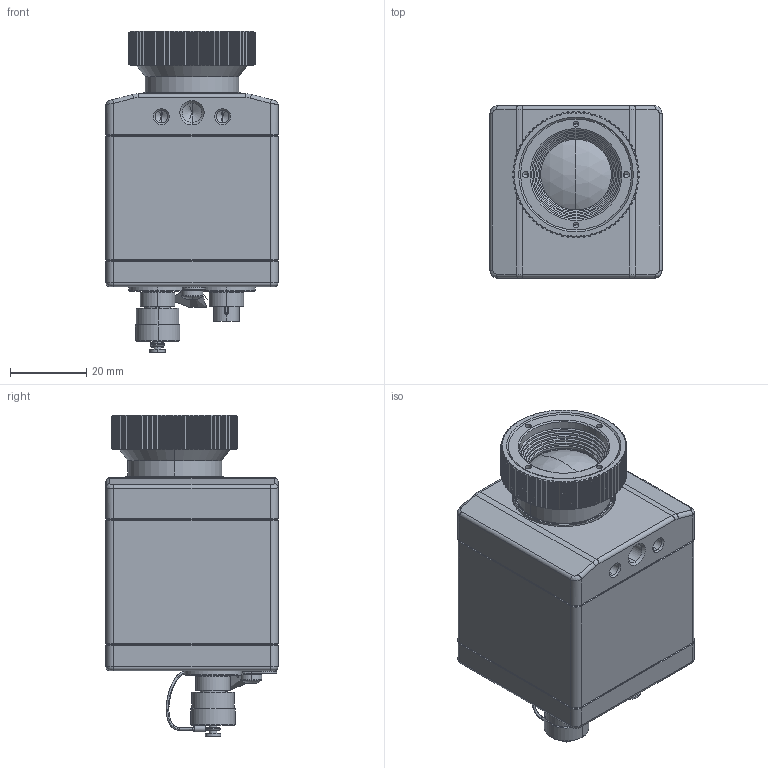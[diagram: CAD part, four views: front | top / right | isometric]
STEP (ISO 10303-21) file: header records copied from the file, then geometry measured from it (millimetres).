
FILE_DESCRIPTION (( 'STEP AP214' ), '1' );
FILE_NAME ('Pi-400i-O29.STEP', '2019-09-30T07:38:51', ( 'admin' ), ( '' ), 'SwSTEP 2.0', 'SolidWorks 2017', '' );
FILE_SCHEMA (( 'AUTOMOTIVE_DESIGN' ));
Length unit declared in the file: millimetre
Products named in the file (29): 1R085-B Linse2-F13-384-GE-p17-RevB; 51099 Schutzkappe-712 FS_F〉 Pi; 63019 O-Ring 19 x 1_O-Ring 16 x 1; 54250 Temperaturaufkleber; 63023 O-Ring 23x1_O-Ring 23 x 1; 61301 Linsenschraube DIN 7985 VZ M3x5_Linsenschraube KS DIN 7985 VZ M3x5; 1P456 Schraubring F13-382p17; 63163 O-Ring NBR 50 x 1,5; 1P457 Objektivtubus F13-382p17; 51095 Flanschstecker 712; 5-polig; 1P110-2 Objektivhaltering G2; 51093 Flanschstecker 712; 5-1polig; 1P005 Hülsenmutter; 1P023 Heckplatte-steckbar; 1P102 Vierkantrohr-PI2_1P102-1; 9P425-X Chassis PI-400i; Pi-400i-O29; 62205 Sechskantmutter DIN 439 A2 M2,5_PreviewCfg; 63026 O-Ring 26x1_O-Ring 20 x 1; 1P101 Frontplatte-PI2S; 9P119-X Rückwand PI-2S; 52067-25 Schaltlitze 0,14 braun; 52069-0003 Schaltlitze 0,14 gelb; 52066-25 Schaltlitze 0,14 gr黱; 52068-25 Schaltlitze 0,14 weiß; 52065-25 Schaltlitze 0,14 grau; 52061-0003 Schaltlitze 0,14 schwarz; 9P456 Objektivgruppe F13-382p17; 52060-25 Schaltlitze 0,14 rot
Assembly tree (36 placements, depth 3):
  Pi-400i-O29
    9P119-X Rückwand PI-2S
      1P023 Heckplatte-steckbar
      51093 Flanschstecker 712; 5-1polig
      51095 Flanschstecker 712; 5-polig
      63163 O-Ring NBR 50 x 1,5
      61301 Linsenschraube DIN 7985 VZ M3x5_Linsenschraube KS DIN 7985 VZ M3x5
      54250 Temperaturaufkleber
      51099 Schutzkappe-712 FS_F〉 Pi
      52060-25 Schaltlitze 0,14 rot
      52061-0003 Schaltlitze 0,14 schwarz
      52065-25 Schaltlitze 0,14 grau
      52068-25 Schaltlitze 0,14 weiß  x2
      52066-25 Schaltlitze 0,14 gr黱  x2
      52069-0003 Schaltlitze 0,14 gelb
      52067-25 Schaltlitze 0,14 braun
    9P425-X Chassis PI-400i
      1P101 Frontplatte-PI2S
      63026 O-Ring 26x1_O-Ring 20 x 1
      63163 O-Ring NBR 50 x 1,5
      62205 Sechskantmutter DIN 439 A2 M2,5_PreviewCfg  x2
    1P102 Vierkantrohr-PI2_1P102-1
    1P005 Hülsenmutter  x4
    1P110-2 Objektivhaltering G2
    9P456 Objektivgruppe F13-382p17
      1P457 Objektivtubus F13-382p17
      1P456 Schraubring F13-382p17
      63023 O-Ring 23x1_O-Ring 23 x 1  x2
      63019 O-Ring 19 x 1_O-Ring 16 x 1
      1R085-B Linse2-F13-384-GE-p17-RevB
Bounding box: 45 x 45 x 84.15 mm (x, y, z)
Volume: 42411.7 mm3; surface area: 48205.2 mm2
Topology: 33 solids, 44 shells, 2132 faces, 5392 edges, 3382 vertices
Faces by surface type: cylinder 921, plane 522, cone 449, torus 130, bspline 98, sphere 12
Entity records: 70549 total; most frequent: CARTESIAN_POINT 20901, DIRECTION 9829, ORIENTED_EDGE 9690, EDGE_CURVE 4854, AXIS2_PLACEMENT_3D 3938, VERTEX_POINT 3094, EDGE_LOOP 2079, CIRCLE 2063
